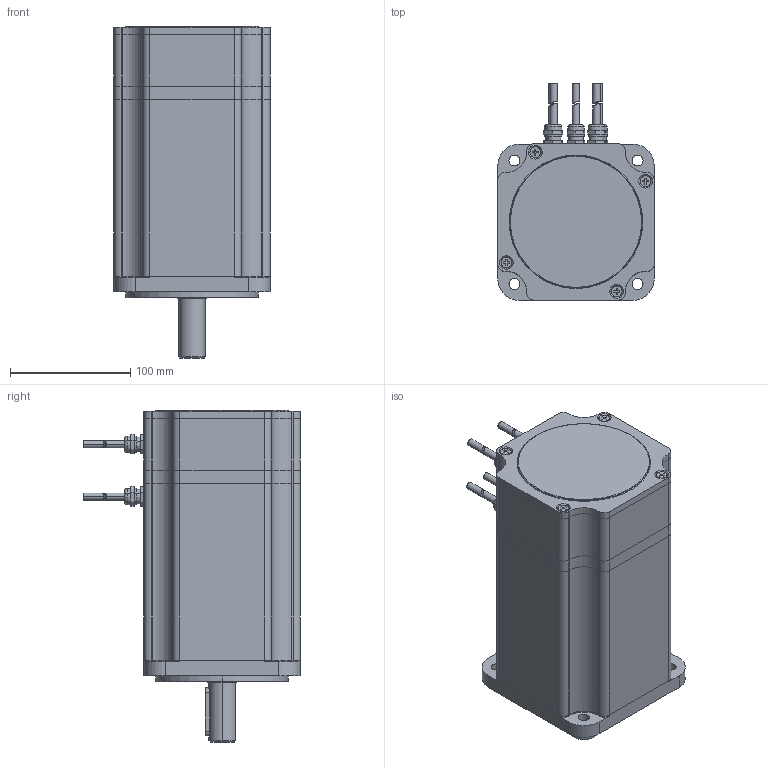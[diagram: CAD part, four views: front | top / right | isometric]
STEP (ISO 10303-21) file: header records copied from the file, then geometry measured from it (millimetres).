
FILE_DESCRIPTION (( 'STEP AP203' ), '1' );
FILE_NAME ('9.5952.STEP', '2021-07-26T07:46:38', ( '' ), ( '' ), 'SwSTEP 2.0', 'SolidWorks 2018', '' );
FILE_SCHEMA (( 'CONFIG_CONTROL_DESIGN' ));
Products named in the file (1): 9.5952
Bounding box: 130 x 180 x 276 mm (x, y, z)
Volume: 1187792.5 mm3; surface area: 444841.8 mm2
Topology: 41 solids, 41 shells, 2022 faces, 5457 edges, 3513 vertices
Faces by surface type: cylinder 781, plane 752, cone 219, torus 152, bspline 64, sphere 54
Entity records: 68798 total; most frequent: CARTESIAN_POINT 17975, DIRECTION 10905, ORIENTED_EDGE 10514, EDGE_CURVE 5257, AXIS2_PLACEMENT_3D 4237, VERTEX_POINT 3405, VECTOR 2431, LINE 2431
